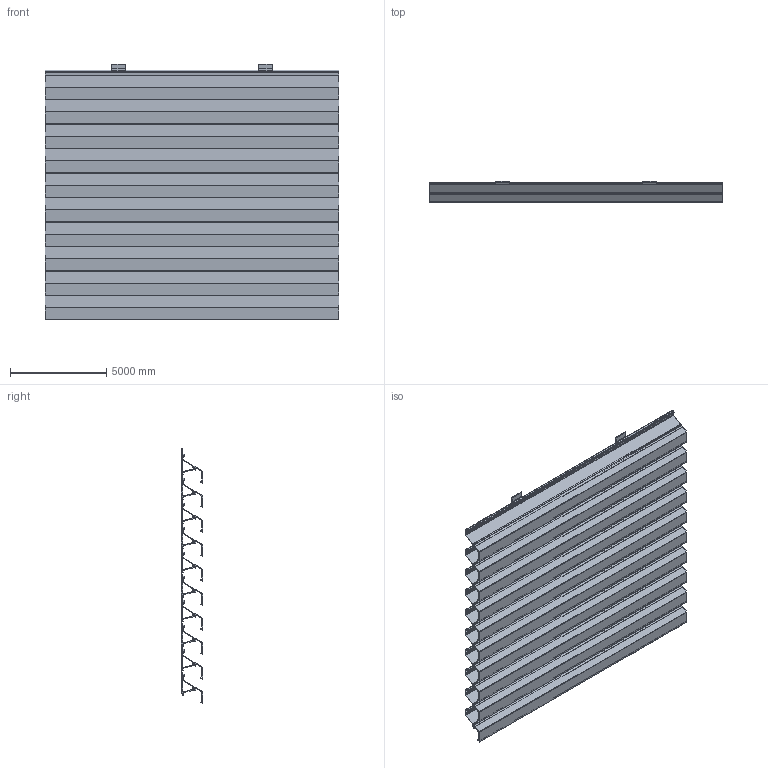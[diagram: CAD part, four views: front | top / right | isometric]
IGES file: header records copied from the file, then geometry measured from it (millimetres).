
Global section: file name: 3D_L_050-25; native system: AutoCAD 2023 - English; preprocessor: Autodesk Translation Framework DWG producer (atf_dwg_producer); organization: unknown; date: 20260202.112332; units: inch
Bounding box: 15240 x 1092.2 x 13255.55 mm (x, y, z)
Volume: 15145228923.7 mm3; surface area: 811938133.6 mm2
Topology: 30 solids, 30 shells, 1580 faces, 4560 edges, 3040 vertices
Faces by surface type: bspline 1580
